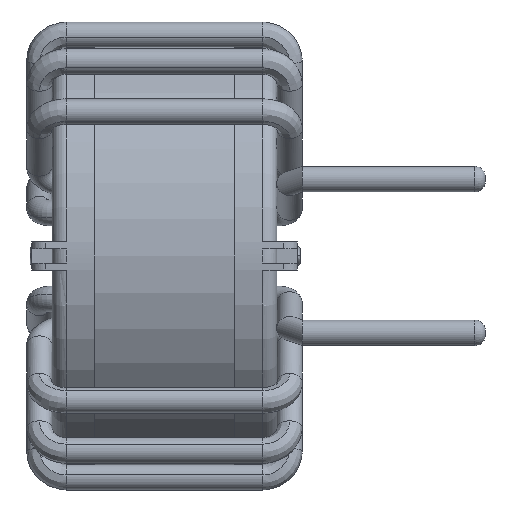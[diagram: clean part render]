
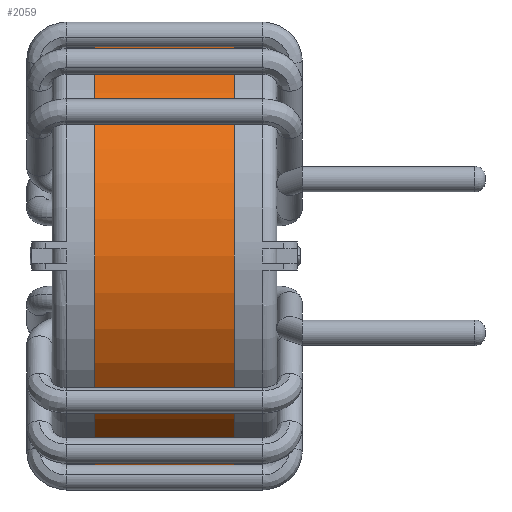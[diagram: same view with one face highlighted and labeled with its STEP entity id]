
A CAD part, left-side view. The second image highlights one B-rep face of the part: STEP entity #2059.
In plain terms, the highlighted cylindrical face has radius 15.245 mm (diameter 30.49 mm), a partial arc.
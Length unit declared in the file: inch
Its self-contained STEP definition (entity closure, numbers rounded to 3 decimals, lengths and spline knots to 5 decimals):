
#1218 = CARTESIAN_POINT ( 'NONE',  ( 0., -0.19685, -0.6002 ) ) ;
#1667 = AXIS2_PLACEMENT_3D ( 'NONE', #17363, #3317, #14960 ) ;
#2059 = ADVANCED_FACE ( 'NONE', ( #6379 ), #5371, .T. ) ;
#2528 = EDGE_CURVE ( 'NONE', #6996, #9381, #7377, .T. ) ;
#2619 = EDGE_CURVE ( 'NONE', #9381, #2791, #12827, .T. ) ;
#2791 = VERTEX_POINT ( 'NONE', #2949 ) ;
#2905 = CARTESIAN_POINT ( 'NONE',  ( 0., 0.19685, -0.6002 ) ) ;
#2949 = CARTESIAN_POINT ( 'NONE',  ( 0., -0.19685, 0.6002 ) ) ;
#3317 = DIRECTION ( 'NONE',  ( 0., -1., 0. ) ) ;
#3614 = DIRECTION ( 'NONE',  ( 0., -1., 0. ) ) ;
#3682 = AXIS2_PLACEMENT_3D ( 'NONE', #12109, #8679, #20752 ) ;
#4446 = ORIENTED_EDGE ( 'NONE', *, *, #5159, .T. ) ;
#4620 = EDGE_LOOP ( 'NONE', ( #19547, #5758, #4446, #5643 ) ) ;
#5159 = EDGE_CURVE ( 'NONE', #6996, #8624, #7334, .T. ) ;
#5371 = CYLINDRICAL_SURFACE ( 'NONE', #1667, 0.6002 ) ;
#5643 = ORIENTED_EDGE ( 'NONE', *, *, #20766, .T. ) ;
#5758 = ORIENTED_EDGE ( 'NONE', *, *, #2528, .F. ) ;
#5761 = CARTESIAN_POINT ( 'NONE',  ( 0., 0.19685, 0.6002 ) ) ;
#5787 = VECTOR ( 'NONE', #3614, 39.37008 ) ;
#5961 = DIRECTION ( 'NONE',  ( 0., -1., 0. ) ) ;
#6379 = FACE_OUTER_BOUND ( 'NONE', #4620, .T. ) ;
#6996 = VERTEX_POINT ( 'NONE', #15242 ) ;
#7312 = CARTESIAN_POINT ( 'NONE',  ( 0., 0.19685, 0. ) ) ;
#7334 = LINE ( 'NONE', #2905, #5787 ) ;
#7377 = CIRCLE ( 'NONE', #10956, 0.6002 ) ;
#7634 = DIRECTION ( 'NONE',  ( 0., 1., 0. ) ) ;
#7985 = DIRECTION ( 'NONE',  ( 0., 0., 1. ) ) ;
#8624 = VERTEX_POINT ( 'NONE', #1218 ) ;
#8679 = DIRECTION ( 'NONE',  ( 0., 1., 0. ) ) ;
#9381 = VERTEX_POINT ( 'NONE', #5761 ) ;
#10114 = CARTESIAN_POINT ( 'NONE',  ( 0., 0.19685, 0.6002 ) ) ;
#10956 = AXIS2_PLACEMENT_3D ( 'NONE', #7312, #7634, #7985 ) ;
#11066 = VECTOR ( 'NONE', #5961, 39.37008 ) ;
#11284 = CIRCLE ( 'NONE', #3682, 0.6002 ) ;
#12109 = CARTESIAN_POINT ( 'NONE',  ( 0., -0.19685, 0. ) ) ;
#12827 = LINE ( 'NONE', #10114, #11066 ) ;
#14960 = DIRECTION ( 'NONE',  ( 0., 0., -1. ) ) ;
#15242 = CARTESIAN_POINT ( 'NONE',  ( 0., 0.19685, -0.6002 ) ) ;
#17363 = CARTESIAN_POINT ( 'NONE',  ( 0., 0.19685, 0. ) ) ;
#19547 = ORIENTED_EDGE ( 'NONE', *, *, #2619, .F. ) ;
#20752 = DIRECTION ( 'NONE',  ( 0., 0., 1. ) ) ;
#20766 = EDGE_CURVE ( 'NONE', #8624, #2791, #11284, .T. ) ;
